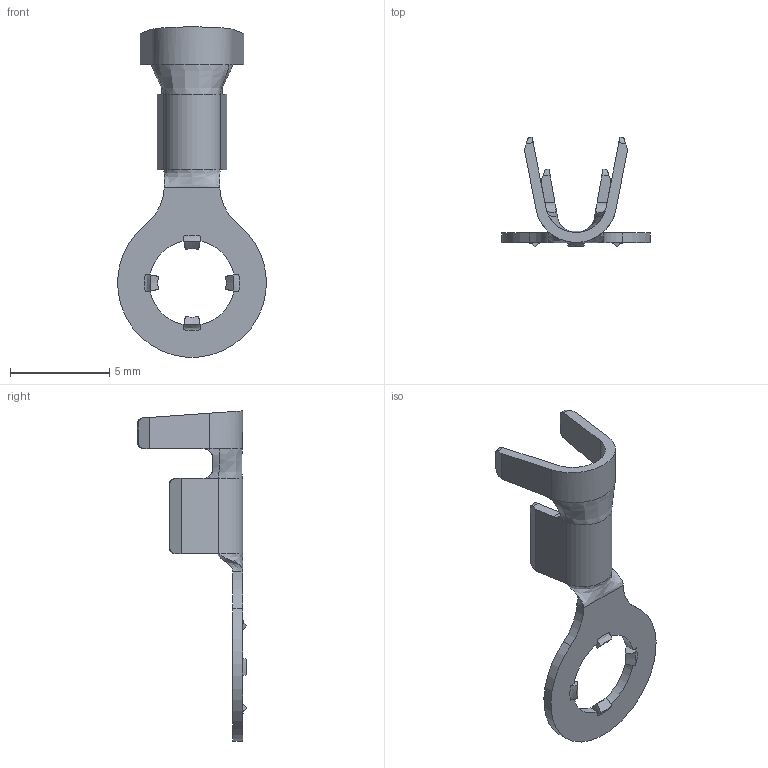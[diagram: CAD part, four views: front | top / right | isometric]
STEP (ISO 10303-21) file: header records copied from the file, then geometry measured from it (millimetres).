
FILE_DESCRIPTION((''),'2;1');
FILE_NAME('TOM43753K-2','2024-05-20T15:39:02',('JSB0628'),(''),'CREO PARAMETRIC BY PTC INC, 2018050','CREO PARAMETRIC BY PTC INC, 2018050','');
FILE_SCHEMA(('CONFIG_CONTROL_DESIGN'));
Length unit declared in the file: millimetre
Products named in the file (1): TOM43753K-2
Bounding box: 7.49 x 5.5 x 16.64 mm (x, y, z)
Volume: 47.1 mm3; surface area: 232.3 mm2
Topology: 1 solids, 1 shells, 96 faces, 240 edges, 146 vertices
Faces by surface type: bspline 38, plane 35, cylinder 23
Entity records: 4741 total; most frequent: CARTESIAN_POINT 2680, ORIENTED_EDGE 480, DIRECTION 304, EDGE_CURVE 240, VERTEX_POINT 146, VECTOR 130, LINE 130, EDGE_LOOP 98
